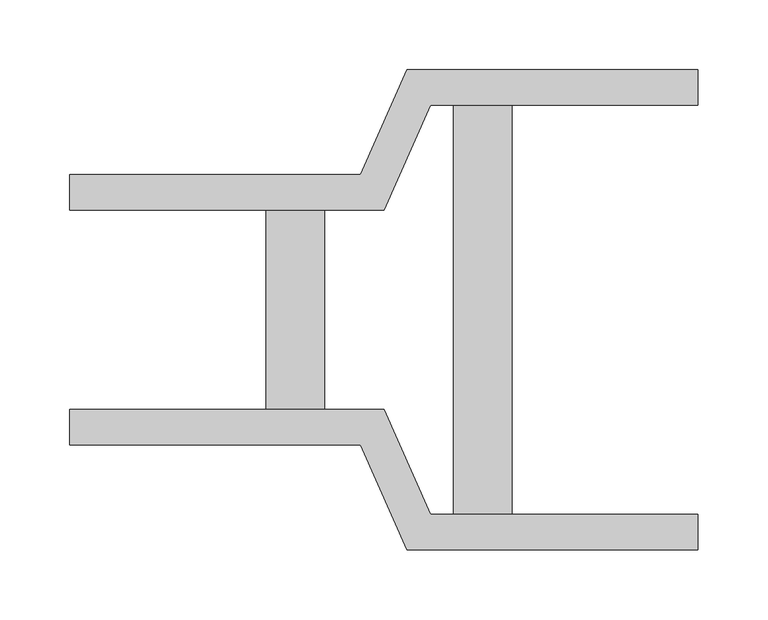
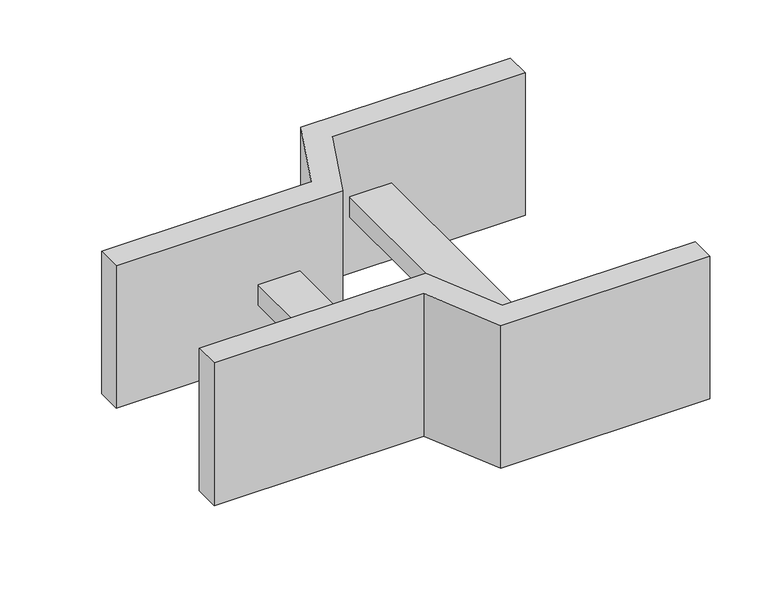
"""IFC4 building model written with IfcOpenShell, lengths in millimetres: cable carrier fitting geometry, Legrand_CableLadder_Swifts_Emerald_Reducer-13 : Straight - Hot Dip Galvanised (after manufacture)."""

from ifc_helpers import new_model, si_unit, frame, origin, place, context, project, spatial, polyline, outline, extrude, source, transform, mapped, element, save


def cable_carrier_fitting_0d3864c6(model_context):
    return source(origin(), model_context, "Body", "SweptSolid", [
        extrude(outline(polyline([(-225.0, 71.5), (-225.0, 97.0), (-16.4777457, 97.0), (16.6982082, 172.0), (225.0, 172.0), (225.0, 146.5), (33.3017918, 146.5), (0.1258379, 71.5), (-225.0, 71.5)])), frame((0.0, 0.0, -75.0), z_axis=(0.0, 0.0, 1.0), x_axis=(1.0, 0.0, 0.0)), (0.0, 0.0, 1.0), 150.0),
        extrude(outline(polyline([(-225.0, -97.0), (-225.0, -71.5), (0.1258379, -71.5), (33.3017918, -146.5), (225.0, -146.5), (225.0, -172.0), (16.6982082, -172.0), (-16.4777457, -97.0), (-225.0, -97.0)])), frame((0.0, 0.0, -75.0), z_axis=(0.0, 0.0, 1.0), x_axis=(1.0, 0.0, 0.0)), (0.0, 0.0, 1.0), 150.0),
        extrude(outline(polyline([(92.0, 146.5), (92.0, -146.5), (50.0, -146.5), (50.0, 146.5), (92.0, 146.5)])), frame((0.0, 0.0, -15.0), z_axis=(0.0, 0.0, 1.0), x_axis=(1.0, 0.0, 0.0)), (0.0, 0.0, 1.0), 21.0),
        extrude(outline(polyline([(-84.3484893, -71.5), (-84.3484893, 71.5), (-42.3484893, 71.5), (-42.3484893, -71.5), (-84.3484893, -71.5)])), frame((0.0, 0.0, -15.0), z_axis=(0.0, 0.0, 1.0), x_axis=(1.0, 0.0, 0.0)), (0.0, 0.0, 1.0), 21.0),
    ])


if __name__ == "__main__":
    model = new_model("IFC4")
    model_context = context("Model", 3, world=origin())
    ifc_project = project(units=[si_unit("LENGTHUNIT", "METRE", prefix="MILLI")], contexts=[model_context])
    site = spatial("IfcSite", under=ifc_project)
    building = spatial("IfcBuilding", under=site)
    placement = place(None, origin())
    cable_carrier_fitting_shape = cable_carrier_fitting_0d3864c6(model_context)
    element("IfcCableCarrierFitting", 1, ObjectType="Legrand_CableLadder_Swifts_Emerald_Reducer-13 : Straight - Hot Dip Galvanised (after manufacture)", at=placement, inside=building, context=model_context, shape_type="MappedRepresentation", body=[
        mapped(cable_carrier_fitting_shape, transform((0.0, 0.0, 0.0), x_axis=(1.0, 0.0, 0.0), y_axis=(0.0, 1.0, 0.0), z_axis=(0.0, 0.0, 1.0))),
    ])
    save(model, "model.ifc")
